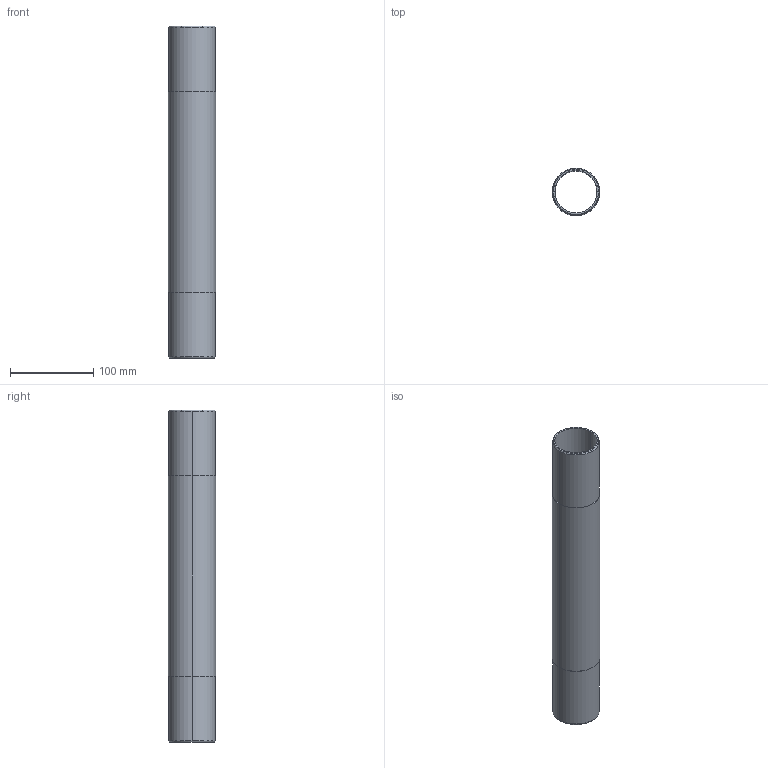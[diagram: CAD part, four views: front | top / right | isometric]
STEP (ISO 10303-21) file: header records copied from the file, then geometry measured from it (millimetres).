
FILE_DESCRIPTION (( 'STEP AP214' ), '1' );
FILE_NAME ('B-50-0400.STEP', '2017-05-09T20:42:43', ( '' ), ( '' ), 'SwSTEP 2.0', 'SolidWorks 2017', '' );
FILE_SCHEMA (( 'AUTOMOTIVE_DESIGN' ));
Length unit declared in the file: inch
Products named in the file (1): B-50-0400
Bounding box: 57.15 x 57.15 x 400 mm (x, y, z)
Volume: 203971.7 mm3; surface area: 136105.1 mm2
Topology: 1 solids, 1 shells, 16 faces, 32 edges, 20 vertices
Faces by surface type: cylinder 8, cone 4, plane 4
Entity records: 468 total; most frequent: DIRECTION 86, CARTESIAN_POINT 69, ORIENTED_EDGE 64, AXIS2_PLACEMENT_3D 37, EDGE_CURVE 32, EDGE_LOOP 20, CIRCLE 20, VERTEX_POINT 20
